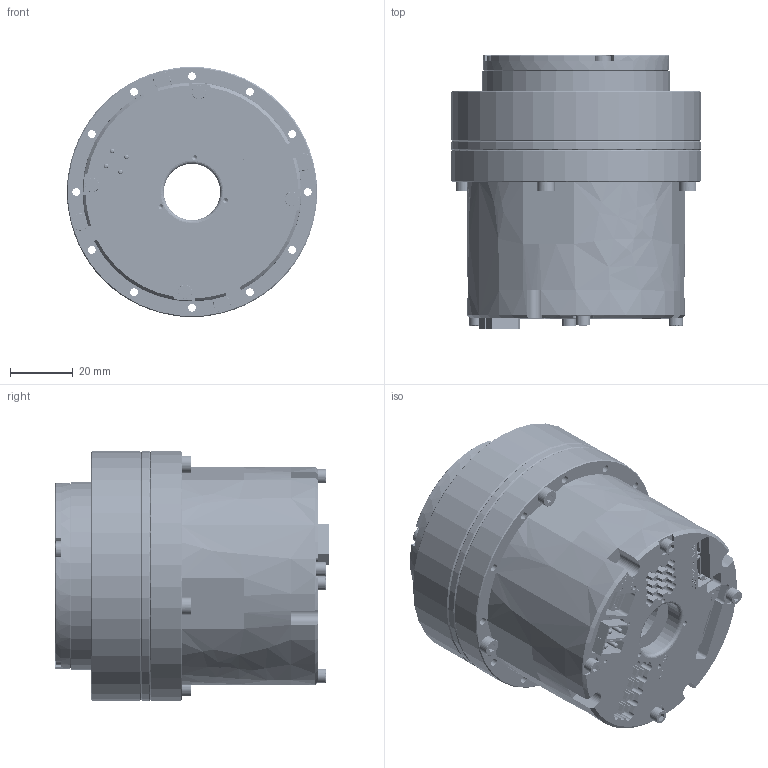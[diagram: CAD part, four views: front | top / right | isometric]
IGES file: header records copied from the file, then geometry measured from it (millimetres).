
Start section: SolidWorks IGES file using analytic representation for surfaces
Global section: file name: C:\Users\Administrator\Desktop\11.7\ﾉﾏｴｫｹﾙﾍeRob80 Iﾐﾍ\eRob80H｡ﾁ｡ﾁI_V5\eRob80H｡ﾁ｡ﾁI_V5.IGS,; native system: SolidWorks 2021; preprocessor: SolidWorks 2021; author: ZERO; date: 221108.142404; units: millimetre
Bounding box: 80 x 87.6 x 80 mm (x, y, z)
Volume: 1473.4 mm3; surface area: 53254.2 mm2
Topology: 17 solids, 35 shells, 2880 faces, 7627 edges, 4939 vertices
Faces by surface type: plane 1577, revolution 1071, bspline 232
